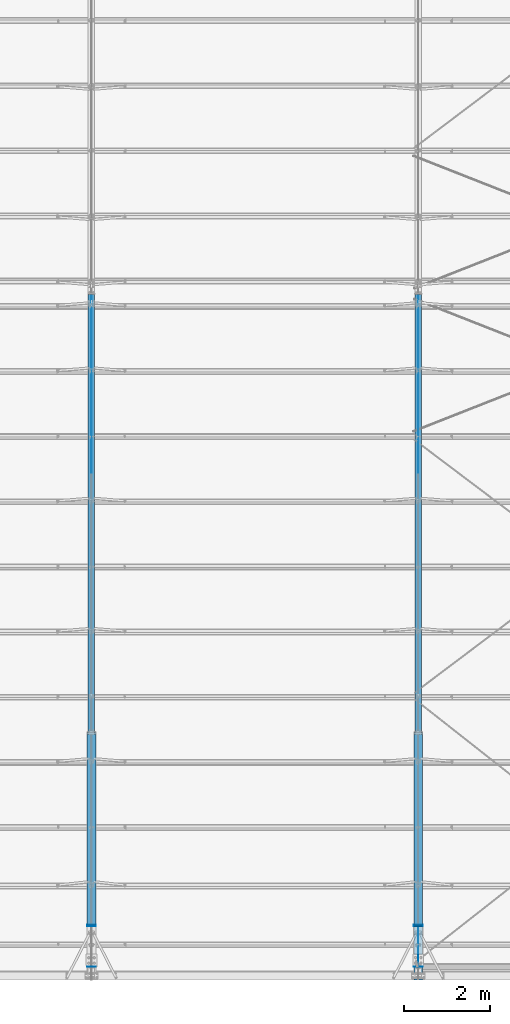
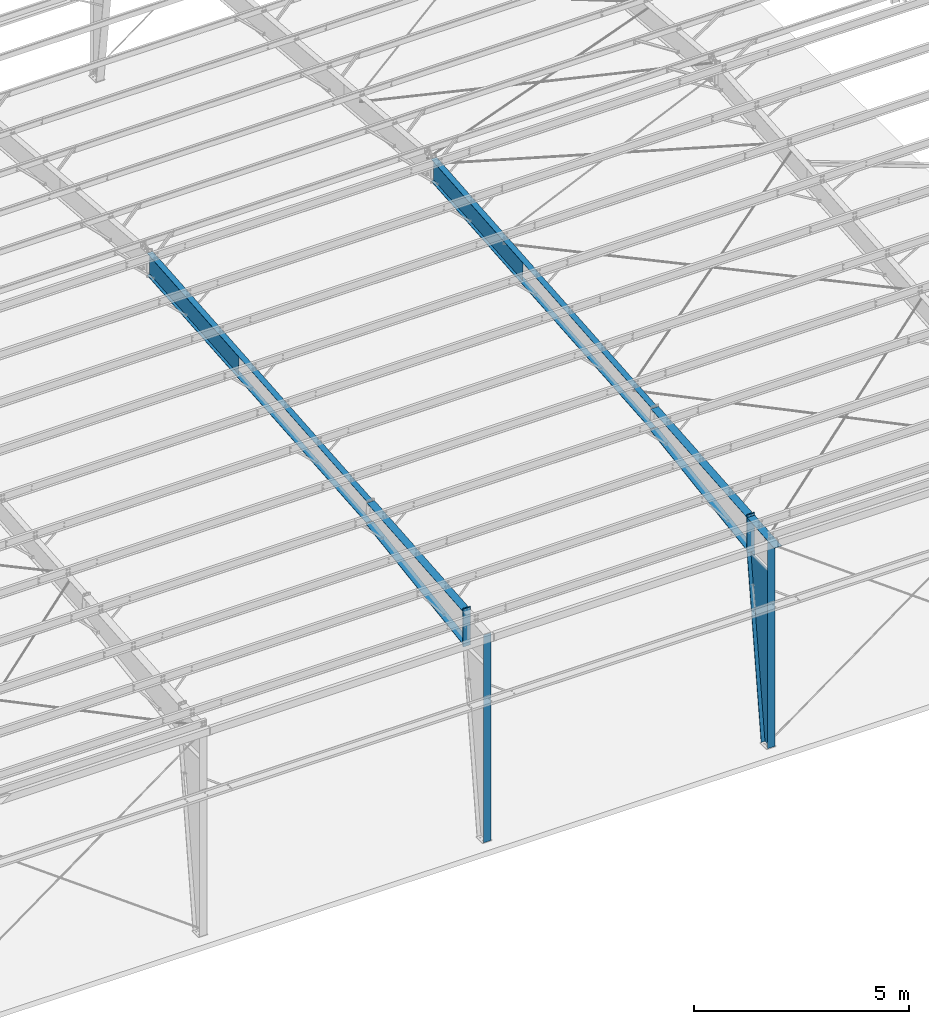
# One storey, part 53 of 185: 19 discrete accessories, 6 elements without a shape of their own.
"""IFC2X3 building model written with IfcOpenShell, lengths in millimetres."""

from ifc_helpers import new_model, si_unit, frame, origin_with_axes, origin_2d_with_axis, place, context, subcontext, project, spatial, rectangle, extrude, clip, halfspace, material, type_object, element, aggregate, save


model = new_model("IFC2X3")

# Units and contexts
model_context = context("Model", 3, precision=1e-05, world=origin_with_axes())
body_context = subcontext(model_context, "Body", "Model", "MODEL_VIEW")
ifc_project = project(units=[si_unit("LENGTHUNIT", "METRE", prefix="MILLI"), si_unit("AREAUNIT", "SQUARE_METRE"), si_unit("VOLUMEUNIT", "CUBIC_METRE"), si_unit("MASSUNIT", "GRAM", prefix="KILO"), si_unit("TIMEUNIT", "SECOND"), si_unit("PLANEANGLEUNIT", "RADIAN"), si_unit("SOLIDANGLEUNIT", "STERADIAN"), si_unit("THERMODYNAMICTEMPERATUREUNIT", "DEGREE_CELSIUS"), si_unit("LUMINOUSINTENSITYUNIT", "LUMEN")], contexts=[model_context])

# Site, building, storey
site_placement = place(None, origin_with_axes())
site = spatial("IfcSite", under=ifc_project, at=site_placement, Name="Undefined", CompositionType="ELEMENT")
building_placement = place(site_placement, origin_with_axes())
building = spatial("IfcBuilding", under=site, at=building_placement, Name="Undefined", CompositionType="ELEMENT")
storey_placement = place(building_placement, origin_with_axes())
storey = spatial("IfcBuildingStorey", under=building, at=storey_placement, Name="Undefined", CompositionType="ELEMENT", Elevation=0.0)

# Assembly, discrete accessory
assembly_1_placement = place(storey_placement, origin_with_axes())
assembly_1 = element("IfcElementAssembly", 1, at=assembly_1_placement, inside=storey, Name="Steel Assembly", AssemblyPlace="NOTDEFINED", PredefinedType="RIGID_FRAME")
ifc_material = material(Name="STEEL/55")
discrete_accessory_type_1 = type_object("IfcDiscreteAccessoryType", Name="Outside Flange")
discrete_accessory_1_placement = place(assembly_1_placement, frame((30099.0, 15988.9730499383, 7220.4829794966), z_axis=(1.0, 0.0, 0.0), x_axis=(0.0, -0.996545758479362, -0.0830454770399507)))
discrete_accessory_1 = element("IfcDiscreteAccessory", 2, at=discrete_accessory_1_placement, type_object=discrete_accessory_type_1, material=ifc_material, Name="Outside Flange", ObjectType="FL5/16\"X6\"", context=body_context, shape_type="SweptSolid", body=[
    extrude(rectangle(XDim=7.874, YDim=152.4, at=origin_2d_with_axis()), frame((10276.4296125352, 1.96160351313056e-12, 0.0), z_axis=(-1.0, 0.0, 0.0), x_axis=(0.0, -1.0, 0.0)), (0.0, 0.0, 1.0), 10276.4),
])

assembly_2_placement = place(storey_placement, origin_with_axes())
assembly_2 = element("IfcElementAssembly", 3, at=assembly_2_placement, inside=storey, Name="Steel Assembly", AssemblyPlace="NOTDEFINED", PredefinedType="RIGID_FRAME")
discrete_accessory_2_placement = place(assembly_2_placement, frame((30099.0, 5725.77406224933, 6365.28254241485), z_axis=(1.0, 0.0, 0.0), x_axis=(0.0, -0.996545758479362, -0.0830454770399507)))
discrete_accessory_2 = element("IfcDiscreteAccessory", 4, at=discrete_accessory_2_placement, type_object=discrete_accessory_type_1, material=ifc_material, Name="Outside Flange", ObjectType="FL5/16\"X8\"", context=body_context, shape_type="SweptSolid", body=[
    extrude(rectangle(XDim=7.874, YDim=203.2, at=origin_2d_with_axis()), frame((4456.74478612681, 0.0, 0.0), z_axis=(-1.0, 0.0, 0.0), x_axis=(0.0, -1.0, 0.0)), (0.0, 0.0, 1.0), 4456.7),
])

assembly_3_placement = place(storey_placement, origin_with_axes())
assembly_3 = element("IfcElementAssembly", 5, at=assembly_3_placement, inside=storey, Name="Steel Assembly", AssemblyPlace="NOTDEFINED", PredefinedType="RIGID_FRAME")
discrete_accessory_3_placement = place(assembly_3_placement, frame((30099.0, 308.737, 15.875), z_axis=(0.0, 0.0, 1.0), x_axis=(-1.0, 0.0, 0.0)))
discrete_accessory_3 = element("IfcDiscreteAccessory", 6, at=discrete_accessory_3_placement, type_object=discrete_accessory_type_1, material=ifc_material, Name="Outside Flange", ObjectType="FL5/16\"X8\"", context=body_context, shape_type="SweptSolid", body=[
    extrude(rectangle(XDim=7.874, YDim=203.2, at=origin_2d_with_axis()), frame((0.0, 0.0, 5893.64290803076), z_axis=(0.0, 0.0, -1.0), x_axis=(0.0, 1.0, 0.0)), (0.0, 0.0, 1.0), 5893.6),
])

assembly_4_placement = place(storey_placement, origin_with_axes())
assembly_4 = element("IfcElementAssembly", 7, at=assembly_4_placement, inside=storey, Name="Steel Assembly", AssemblyPlace="NOTDEFINED", PredefinedType="RIGID_FRAME")
discrete_accessory_4_placement = place(assembly_4_placement, frame((22479.0, 15988.9730499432, 7220.48297949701), z_axis=(1.0, 0.0, 0.0), x_axis=(0.0, -0.996545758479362, -0.0830454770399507)))
discrete_accessory_4 = element("IfcDiscreteAccessory", 8, at=discrete_accessory_4_placement, type_object=discrete_accessory_type_1, material=ifc_material, Name="Outside Flange", ObjectType="FL5/16\"X6\"", context=body_context, shape_type="SweptSolid", body=[
    extrude(rectangle(XDim=7.874, YDim=152.4, at=origin_2d_with_axis()), frame((10276.4296125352, 1.96160351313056e-12, 0.0), z_axis=(-1.0, 0.0, 0.0), x_axis=(0.0, -1.0, 0.0)), (0.0, 0.0, 1.0), 10276.4),
])

assembly_5_placement = place(storey_placement, origin_with_axes())
assembly_5 = element("IfcElementAssembly", 9, at=assembly_5_placement, inside=storey, Name="Steel Assembly", AssemblyPlace="NOTDEFINED", PredefinedType="RIGID_FRAME")
discrete_accessory_5_placement = place(assembly_5_placement, frame((22479.0, 5725.77406224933, 6365.28254241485), z_axis=(1.0, 0.0, 0.0), x_axis=(0.0, -0.996545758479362, -0.0830454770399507)))
discrete_accessory_5 = element("IfcDiscreteAccessory", 10, at=discrete_accessory_5_placement, type_object=discrete_accessory_type_1, material=ifc_material, Name="Outside Flange", ObjectType="FL5/16\"X8\"", context=body_context, shape_type="SweptSolid", body=[
    extrude(rectangle(XDim=7.874, YDim=203.2, at=origin_2d_with_axis()), frame((4456.74478612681, 0.0, 0.0), z_axis=(-1.0, 0.0, 0.0), x_axis=(0.0, -1.0, 0.0)), (0.0, 0.0, 1.0), 4456.7),
])

assembly_6_placement = place(storey_placement, origin_with_axes())
assembly_6 = element("IfcElementAssembly", 11, at=assembly_6_placement, inside=storey, Name="Steel Assembly", AssemblyPlace="NOTDEFINED", PredefinedType="RIGID_FRAME")
discrete_accessory_6_placement = place(assembly_6_placement, frame((22479.0, 308.737, 15.875), z_axis=(0.0, 0.0, 1.0), x_axis=(-1.0, 0.0, 0.0)))
discrete_accessory_6 = element("IfcDiscreteAccessory", 12, at=discrete_accessory_6_placement, type_object=discrete_accessory_type_1, material=ifc_material, Name="Outside Flange", ObjectType="FL5/16\"X8\"", context=body_context, shape_type="SweptSolid", body=[
    extrude(rectangle(XDim=7.874, YDim=203.2, at=origin_2d_with_axis()), frame((0.0, 0.0, 5893.64290803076), z_axis=(0.0, 0.0, -1.0), x_axis=(0.0, 1.0, 0.0)), (0.0, 0.0, 1.0), 5893.6),
])

# Discrete accessory
discrete_accessory_type_2 = type_object("IfcDiscreteAccessoryType", Name="Inside Flange")
discrete_accessory_7_placement = place(assembly_1_placement, frame((30098.9999999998, 15988.9044958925, 6600.03460772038), z_axis=(1.0, 0.0, 0.0), x_axis=(0.0, -0.996545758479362, -0.0830454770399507)))
discrete_accessory_7 = element("IfcDiscreteAccessory", 13, at=discrete_accessory_7_placement, type_object=discrete_accessory_type_2, material=ifc_material, Name="Inside Flange", ObjectType="FL3/8\"X6\"", context=body_context, shape_type="SweptSolid", body=[
    extrude(rectangle(XDim=9.525, YDim=152.4, at=origin_2d_with_axis()), frame((10224.8358624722, 0.0, 0.0), z_axis=(-1.0, 0.0, 0.0), x_axis=(0.0, -1.0, 0.0)), (0.0, 0.0, 1.0), 10224.8),
])

discrete_accessory_8_placement = place(assembly_2_placement, frame((30098.9999999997, 1285.04641844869, 5067.34401433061), z_axis=(-1.0, 0.0, 0.0), x_axis=(0.0, 0.988758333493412, 0.149522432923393)))
discrete_accessory_8 = element("IfcDiscreteAccessory", 14, at=discrete_accessory_8_placement, type_object=discrete_accessory_type_2, material=ifc_material, Name="Inside Flange", ObjectType="FL1/2\"X8\"", context=body_context, shape_type="SweptSolid", body=[
    extrude(rectangle(XDim=12.7, YDim=203.2, at=origin_2d_with_axis()), frame((4542.9272168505, 0.0, 0.0), z_axis=(-1.0, 0.0, 0.0), x_axis=(0.0, -1.0, 0.0)), (0.0, 0.0, 1.0), 4542.9),
])

discrete_accessory_9_placement = place(assembly_3_placement, frame((30098.9999999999, 603.414073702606, 16.7042436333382), z_axis=(-1.0, 0.0, 0.0), x_axis=(0.0, 0.130589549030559, 0.991436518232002)))
discrete_accessory_9 = element("IfcDiscreteAccessory", 15, at=discrete_accessory_9_placement, type_object=discrete_accessory_type_2, material=ifc_material, Name="Inside Flange", ObjectType="FL1/2\"X8\"", context=body_context, shape_type="SweptSolid", body=[
    extrude(rectangle(XDim=12.7, YDim=203.2, at=origin_2d_with_axis()), frame((5018.43796554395, 1.39289634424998e-13, 0.0), z_axis=(-1.0, 0.0, 0.0), x_axis=(0.0, -1.0, 0.0)), (0.0, 0.0, 1.0), 5018.4),
])

discrete_accessory_10_placement = place(assembly_4_placement, frame((22478.9999999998, 15988.9044958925, 6600.03460772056), z_axis=(1.0, 0.0, 0.0), x_axis=(0.0, -0.996545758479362, -0.0830454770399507)))
discrete_accessory_10 = element("IfcDiscreteAccessory", 16, at=discrete_accessory_10_placement, type_object=discrete_accessory_type_2, material=ifc_material, Name="Inside Flange", ObjectType="FL3/8\"X6\"", context=body_context, shape_type="SweptSolid", body=[
    extrude(rectangle(XDim=9.525, YDim=152.4, at=origin_2d_with_axis()), frame((10224.8358624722, 0.0, 0.0), z_axis=(-1.0, 0.0, 0.0), x_axis=(0.0, -1.0, 0.0)), (0.0, 0.0, 1.0), 10224.8),
])

discrete_accessory_11_placement = place(assembly_5_placement, frame((22478.9999999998, 1285.04641844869, 5067.34401433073), z_axis=(-1.0, 0.0, 0.0), x_axis=(0.0, 0.988758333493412, 0.149522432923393)))
discrete_accessory_11 = element("IfcDiscreteAccessory", 17, at=discrete_accessory_11_placement, type_object=discrete_accessory_type_2, material=ifc_material, Name="Inside Flange", ObjectType="FL1/2\"X8\"", context=body_context, shape_type="SweptSolid", body=[
    extrude(rectangle(XDim=12.7, YDim=203.2, at=origin_2d_with_axis()), frame((4542.9272168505, 0.0, 0.0), z_axis=(-1.0, 0.0, 0.0), x_axis=(0.0, -1.0, 0.0)), (0.0, 0.0, 1.0), 4542.9),
])

discrete_accessory_type_3 = type_object("IfcDiscreteAccessoryType", Name="Web")
discrete_accessory_12_placement = place(assembly_1_placement, frame((30099.0, 11848.6228640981, 6565.64664855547), z_axis=(0.0, -0.0830454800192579, 0.996545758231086), x_axis=(0.0, 0.996545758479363, 0.0830454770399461)))
discrete_accessory_12 = element("IfcDiscreteAccessory", 18, at=discrete_accessory_12_placement, type_object=discrete_accessory_type_3, material=ifc_material, Name="Web", ObjectType="PL3/16\"X24\"", context=body_context, shape_type="Clipping", body=[
    clip(extrude(rectangle(XDim=4.762, YDim=609.6, at=origin_2d_with_axis()), frame((4231.63776454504, 0.0, 5.87257709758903e-14), z_axis=(-1.0, 0.0, 0.0), x_axis=(0.0, -1.0, 0.0)), (0.0, 0.0, 1.0), 4231.6), halfspace(frame((4180.5175024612, 0.0, 305.854676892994), z_axis=(-0.996545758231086, 0.0, 0.0830454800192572), x_axis=(0.0, -1.0, 0.0)), True)),
])

aggregate(assembly_1, [discrete_accessory_7, discrete_accessory_12, discrete_accessory_1])

discrete_accessory_13_placement = place(assembly_3_placement, frame((30099.0, 782.574, 15.875), z_axis=(0.0, 0.0, 1.0), x_axis=(0.0, -1.0, 0.0)))
discrete_accessory_13 = element("IfcDiscreteAccessory", 19, at=discrete_accessory_13_placement, type_object=discrete_accessory_type_3, material=ifc_material, Name="Web", ObjectType="PL3/16\"X37\"", context=body_context, shape_type="Clipping", body=[
    clip(extrude(rectangle(XDim=4.7625, YDim=939.8, at=origin_2d_with_axis()), frame((0.0, 0.0, 4977.1211511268), z_axis=(0.0, 0.0, -1.0), x_axis=(0.0, 1.0, 0.0)), (0.0, 0.0, 1.0), 4977.1), halfspace(frame((-469.9, -2.38124999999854, 4977.12115112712), z_axis=(-0.991436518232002, 0.0, -0.130589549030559), x_axis=(0.130589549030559, 0.0, -0.991436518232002)), False)),
])

discrete_accessory_14_placement = place(assembly_4_placement, frame((22479.0, 11848.6228640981, 6565.64664855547), z_axis=(0.0, -0.0830454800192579, 0.996545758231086), x_axis=(0.0, 0.996545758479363, 0.0830454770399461)))
discrete_accessory_14 = element("IfcDiscreteAccessory", 20, at=discrete_accessory_14_placement, type_object=discrete_accessory_type_3, material=ifc_material, Name="Web", ObjectType="PL3/16\"X24\"", context=body_context, shape_type="Clipping", body=[
    clip(extrude(rectangle(XDim=4.762, YDim=609.6, at=origin_2d_with_axis()), frame((4231.63776454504, 0.0, 5.87257709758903e-14), z_axis=(-1.0, 0.0, 0.0), x_axis=(0.0, -1.0, 0.0)), (0.0, 0.0, 1.0), 4231.6), halfspace(frame((4180.5175024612, 0.0, 305.854676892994), z_axis=(-0.996545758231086, 0.0, 0.0830454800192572), x_axis=(0.0, -1.0, 0.0)), True)),
])

aggregate(assembly_4, [discrete_accessory_4, discrete_accessory_10, discrete_accessory_14])

discrete_accessory_type_4 = type_object("IfcDiscreteAccessoryType", Name="Rafter Haunch Plate")
discrete_accessory_15_placement = place(assembly_2_placement, frame((30099.0, 1276.223, 6069.32115112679), z_axis=(1.0, 0.0, 0.0), x_axis=(0.0, 0.0, -1.0)))
discrete_accessory_15 = element("IfcDiscreteAccessory", 21, at=discrete_accessory_15_placement, type_object=discrete_accessory_type_4, material=ifc_material, Name="Rafter Haunch Plate", ObjectType="PL5/8\"X8\"", context=body_context, shape_type="SweptSolid", body=[
    extrude(rectangle(XDim=15.748, YDim=203.2, at=origin_2d_with_axis()), frame((1076.32500219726, 0.0, 0.0), z_axis=(-1.0, 0.0, 0.0), x_axis=(0.0, -1.0, 0.0)), (0.0, 0.0, 1.0), 1076.3),
])

aggregate(assembly_2, [discrete_accessory_2, discrete_accessory_8, discrete_accessory_15])

discrete_accessory_16_placement = place(assembly_5_placement, frame((22479.0, 1276.223, 6069.32115112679), z_axis=(1.0, 0.0, 0.0), x_axis=(0.0, 0.0, -1.0)))
discrete_accessory_16 = element("IfcDiscreteAccessory", 22, at=discrete_accessory_16_placement, type_object=discrete_accessory_type_4, material=ifc_material, Name="Rafter Haunch Plate", ObjectType="PL5/8\"X8\"", context=body_context, shape_type="SweptSolid", body=[
    extrude(rectangle(XDim=15.748, YDim=203.2, at=origin_2d_with_axis()), frame((1076.32500219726, 0.0, 0.0), z_axis=(-1.0, 0.0, 0.0), x_axis=(0.0, -1.0, 0.0)), (0.0, 0.0, 1.0), 1076.3),
])

aggregate(assembly_5, [discrete_accessory_5, discrete_accessory_11, discrete_accessory_16])

discrete_accessory_type_5 = type_object("IfcDiscreteAccessoryType", Name="Column Connection Pla")
discrete_accessory_17_placement = place(assembly_3_placement, frame((30099.0, 1260.4115, 6069.32115222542), z_axis=(1.0, 0.0, 0.0), x_axis=(0.0, 0.0, -1.0)))
discrete_accessory_17 = element("IfcDiscreteAccessory", 23, at=discrete_accessory_17_placement, type_object=discrete_accessory_type_5, material=ifc_material, Name="Column Connection Pla", ObjectType="FL5/8\"X8\"", context=body_context, shape_type="SweptSolid", body=[
    extrude(rectangle(XDim=15.875, YDim=203.2, at=origin_2d_with_axis()), frame((1076.32500219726, 0.0, 0.0), z_axis=(-1.0, 0.0, 0.0), x_axis=(0.0, -1.0, 0.0)), (0.0, 0.0, 1.0), 1076.3),
])

discrete_accessory_18_placement = place(assembly_6_placement, frame((22479.0, 1260.4115, 6069.32115222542), z_axis=(1.0, 0.0, 0.0), x_axis=(0.0, 0.0, -1.0)))
discrete_accessory_18 = element("IfcDiscreteAccessory", 24, at=discrete_accessory_18_placement, type_object=discrete_accessory_type_5, material=ifc_material, Name="Column Connection Pla", ObjectType="FL5/8\"X8\"", context=body_context, shape_type="SweptSolid", body=[
    extrude(rectangle(XDim=15.875, YDim=203.2, at=origin_2d_with_axis()), frame((1076.32500219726, 0.0, 0.0), z_axis=(-1.0, 0.0, 0.0), x_axis=(0.0, -1.0, 0.0)), (0.0, 0.0, 1.0), 1076.3),
])

aggregate(assembly_6, [discrete_accessory_18, discrete_accessory_6])

discrete_accessory_type_6 = type_object("IfcDiscreteAccessoryType", Name="Cap Plate")
discrete_accessory_19_placement = place(assembly_3_placement, frame((30099.0, 0.330114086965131, 5888.13429608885), z_axis=(-1.0, 0.0, 0.0), x_axis=(0.0, 0.996545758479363, 0.0830454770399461)))
discrete_accessory_19 = element("IfcDiscreteAccessory", 25, at=discrete_accessory_19_placement, type_object=discrete_accessory_type_6, material=ifc_material, Name="Cap Plate", ObjectType="FL5/16\"X8\"", context=body_context, shape_type="SweptSolid", body=[
    extrude(rectangle(XDim=7.9502, YDim=203.2, at=origin_2d_with_axis()), frame((1256.15282737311, 0.0, 0.0), z_axis=(-1.0, 0.0, 0.0), x_axis=(0.0, -1.0, 0.0)), (0.0, 0.0, 1.0), 1256.2),
])

aggregate(assembly_3, [discrete_accessory_17, discrete_accessory_19, discrete_accessory_13, discrete_accessory_9, discrete_accessory_3])

save(model, "model.ifc")
